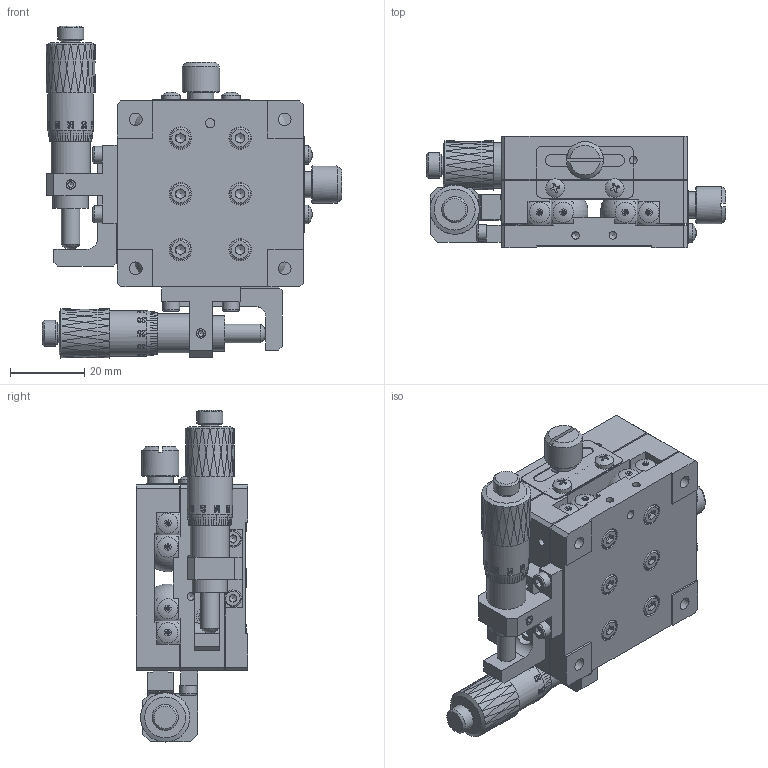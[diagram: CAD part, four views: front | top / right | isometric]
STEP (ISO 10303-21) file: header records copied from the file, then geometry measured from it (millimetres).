
FILE_DESCRIPTION (( 'STEP AP203' ), '1' );
FILE_NAME ('BPMB50.STEP', '2024-07-25T11:31:47', ( 'Windows User' ), ( 'P R C' ), 'SwSTEP 2.0', 'SolidWorks 2024', '' );
FILE_SCHEMA (( 'CONFIG_CONTROL_DESIGN' ));
Products named in the file (1): BPMB50
Bounding box: 80.4 x 30 x 89.2 mm (x, y, z)
Volume: 74323.2 mm3; surface area: 66560.6 mm2
Topology: 53 solids, 53 shells, 2994 faces, 7464 edges, 4822 vertices
Faces by surface type: plane 1226, bspline 790, cylinder 533, cone 403, torus 36, sphere 6
Full cylindrical faces by diameter (mm): 1.6 x6, 2 x32, 2.05 x30, 2.4 x2, 2.5 x29, 2.55 x24, 2.95 x18, 3 x18, 3.1 x4, 3.2 x4, 3.4 x22, 4.4 x24, 4.5 x8, 5 x10, 5.5 x12, 5.8 x4, 6 x22, 7 x4, 8.5 x2, 9.5 x4, 10 x2, 10.5 x2, 12.2 x2
Entity records: 148291 total; most frequent: CARTESIAN_POINT 87625, ORIENTED_EDGE 13484, DIRECTION 9304, EDGE_CURVE 6742, VERTEX_POINT 4640, EDGE_LOOP 4056, AXIS2_PLACEMENT_3D 3455, FACE_OUTER_BOUND 3269
